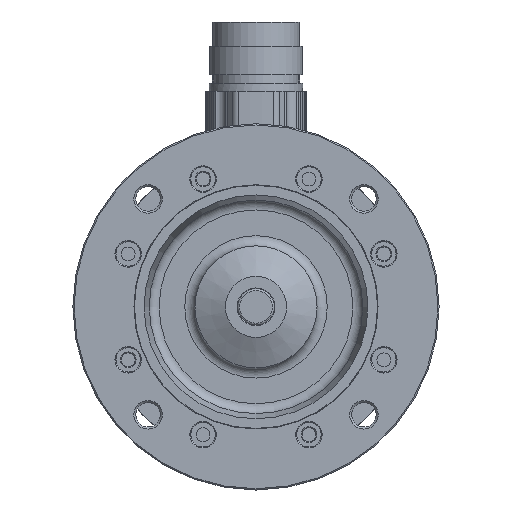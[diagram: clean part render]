
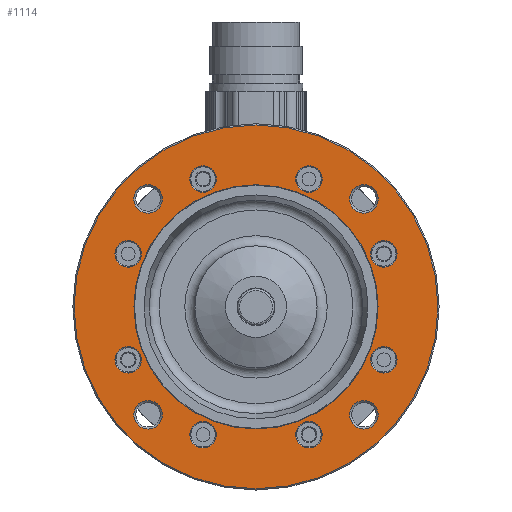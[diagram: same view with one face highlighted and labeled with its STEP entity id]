
A CAD part, front view. The second image highlights one B-rep face of the part: STEP entity #1114.
In plain terms, the highlighted planar face has unit normal (0, -1, 0).
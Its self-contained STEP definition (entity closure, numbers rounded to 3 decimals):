
#433=PLANE('',#6247);
#541=FACE_BOUND('',#2040,.T.);
#542=FACE_BOUND('',#2041,.T.);
#543=FACE_BOUND('',#2042,.T.);
#544=FACE_BOUND('',#2043,.T.);
#545=FACE_BOUND('',#2044,.T.);
#546=FACE_BOUND('',#2045,.T.);
#547=FACE_BOUND('',#2046,.T.);
#548=FACE_BOUND('',#2047,.T.);
#549=FACE_BOUND('',#2048,.T.);
#550=FACE_BOUND('',#2049,.T.);
#551=FACE_BOUND('',#2050,.T.);
#552=FACE_BOUND('',#2051,.T.);
#553=FACE_BOUND('',#2052,.T.);
#1114=ADVANCED_FACE('',(#1760,#541,#542,#543,#544,#545,#546,#547,#548,#549,
#550,#551,#552,#553),#433,.T.);
#1760=FACE_OUTER_BOUND('',#2039,.T.);
#2039=EDGE_LOOP('',(#3433));
#2040=EDGE_LOOP('',(#3434));
#2041=EDGE_LOOP('',(#3435));
#2042=EDGE_LOOP('',(#3436));
#2043=EDGE_LOOP('',(#3437));
#2044=EDGE_LOOP('',(#3438));
#2045=EDGE_LOOP('',(#3439));
#2046=EDGE_LOOP('',(#3440));
#2047=EDGE_LOOP('',(#3441));
#2048=EDGE_LOOP('',(#3442));
#2049=EDGE_LOOP('',(#3443));
#2050=EDGE_LOOP('',(#3444));
#2051=EDGE_LOOP('',(#3445));
#2052=EDGE_LOOP('',(#3446));
#2886=CIRCLE('',#6233,44.7);
#2887=CIRCLE('',#6234,3.25);
#2888=CIRCLE('',#6235,3.25);
#2889=CIRCLE('',#6236,3.25);
#2890=CIRCLE('',#6237,3.25);
#2891=CIRCLE('',#6238,3.25);
#2892=CIRCLE('',#6239,3.25);
#2893=CIRCLE('',#6240,3.25);
#2894=CIRCLE('',#6241,3.25);
#2895=CIRCLE('',#6242,3.5);
#2896=CIRCLE('',#6243,3.5);
#2897=CIRCLE('',#6244,3.5);
#2898=CIRCLE('',#6245,3.5);
#2899=CIRCLE('',#6246,30.);
#3433=ORIENTED_EDGE('',*,*,#5332,.T.);
#3434=ORIENTED_EDGE('',*,*,#5333,.T.);
#3435=ORIENTED_EDGE('',*,*,#5334,.T.);
#3436=ORIENTED_EDGE('',*,*,#5335,.T.);
#3437=ORIENTED_EDGE('',*,*,#5336,.T.);
#3438=ORIENTED_EDGE('',*,*,#5337,.T.);
#3439=ORIENTED_EDGE('',*,*,#5338,.T.);
#3440=ORIENTED_EDGE('',*,*,#5339,.T.);
#3441=ORIENTED_EDGE('',*,*,#5340,.T.);
#3442=ORIENTED_EDGE('',*,*,#5341,.T.);
#3443=ORIENTED_EDGE('',*,*,#5342,.T.);
#3444=ORIENTED_EDGE('',*,*,#5343,.T.);
#3445=ORIENTED_EDGE('',*,*,#5344,.T.);
#3446=ORIENTED_EDGE('',*,*,#5345,.F.);
#4759=VERTEX_POINT('',#9317);
#4760=VERTEX_POINT('',#9319);
#4761=VERTEX_POINT('',#9321);
#4762=VERTEX_POINT('',#9323);
#4763=VERTEX_POINT('',#9325);
#4764=VERTEX_POINT('',#9327);
#4765=VERTEX_POINT('',#9329);
#4766=VERTEX_POINT('',#9331);
#4767=VERTEX_POINT('',#9333);
#4768=VERTEX_POINT('',#9335);
#4769=VERTEX_POINT('',#9337);
#4770=VERTEX_POINT('',#9339);
#4771=VERTEX_POINT('',#9341);
#4772=VERTEX_POINT('',#9343);
#5332=EDGE_CURVE('',#4759,#4759,#2886,.T.);
#5333=EDGE_CURVE('',#4760,#4760,#2887,.T.);
#5334=EDGE_CURVE('',#4761,#4761,#2888,.T.);
#5335=EDGE_CURVE('',#4762,#4762,#2889,.T.);
#5336=EDGE_CURVE('',#4763,#4763,#2890,.T.);
#5337=EDGE_CURVE('',#4764,#4764,#2891,.T.);
#5338=EDGE_CURVE('',#4765,#4765,#2892,.T.);
#5339=EDGE_CURVE('',#4766,#4766,#2893,.T.);
#5340=EDGE_CURVE('',#4767,#4767,#2894,.T.);
#5341=EDGE_CURVE('',#4768,#4768,#2895,.T.);
#5342=EDGE_CURVE('',#4769,#4769,#2896,.T.);
#5343=EDGE_CURVE('',#4770,#4770,#2897,.T.);
#5344=EDGE_CURVE('',#4771,#4771,#2898,.T.);
#5345=EDGE_CURVE('',#4772,#4772,#2899,.T.);
#6233=AXIS2_PLACEMENT_3D('',#9316,#7240,#7241);
#6234=AXIS2_PLACEMENT_3D('',#9318,#7242,#7243);
#6235=AXIS2_PLACEMENT_3D('',#9320,#7244,#7245);
#6236=AXIS2_PLACEMENT_3D('',#9322,#7246,#7247);
#6237=AXIS2_PLACEMENT_3D('',#9324,#7248,#7249);
#6238=AXIS2_PLACEMENT_3D('',#9326,#7250,#7251);
#6239=AXIS2_PLACEMENT_3D('',#9328,#7252,#7253);
#6240=AXIS2_PLACEMENT_3D('',#9330,#7254,#7255);
#6241=AXIS2_PLACEMENT_3D('',#9332,#7256,#7257);
#6242=AXIS2_PLACEMENT_3D('',#9334,#7258,#7259);
#6243=AXIS2_PLACEMENT_3D('',#9336,#7260,#7261);
#6244=AXIS2_PLACEMENT_3D('',#9338,#7262,#7263);
#6245=AXIS2_PLACEMENT_3D('',#9340,#7264,#7265);
#6246=AXIS2_PLACEMENT_3D('',#9342,#7266,#7267);
#6247=AXIS2_PLACEMENT_3D('',#9344,#7268,#7269);
#7240=DIRECTION('',(0.,-1.,0.));
#7241=DIRECTION('',(0.,0.,-1.));
#7242=DIRECTION('',(0.,1.,0.));
#7243=DIRECTION('',(0.,0.,-1.));
#7244=DIRECTION('',(0.,1.,0.));
#7245=DIRECTION('',(0.,0.,-1.));
#7246=DIRECTION('',(0.,1.,0.));
#7247=DIRECTION('',(0.,0.,-1.));
#7248=DIRECTION('',(0.,1.,0.));
#7249=DIRECTION('',(0.,0.,-1.));
#7250=DIRECTION('',(0.,1.,0.));
#7251=DIRECTION('',(0.,0.,-1.));
#7252=DIRECTION('',(0.,1.,0.));
#7253=DIRECTION('',(0.,0.,-1.));
#7254=DIRECTION('',(0.,1.,0.));
#7255=DIRECTION('',(0.,0.,-1.));
#7256=DIRECTION('',(0.,1.,0.));
#7257=DIRECTION('',(0.,0.,-1.));
#7258=DIRECTION('',(0.,1.,0.));
#7259=DIRECTION('',(0.,0.,-1.));
#7260=DIRECTION('',(0.,1.,0.));
#7261=DIRECTION('',(0.,0.,-1.));
#7262=DIRECTION('',(0.,1.,0.));
#7263=DIRECTION('',(0.,0.,-1.));
#7264=DIRECTION('',(0.,1.,0.));
#7265=DIRECTION('',(0.,0.,-1.));
#7266=DIRECTION('',(0.,-1.,0.));
#7267=DIRECTION('',(0.,0.,-1.));
#7268=DIRECTION('',(0.,-1.,0.));
#7269=DIRECTION('',(0.,0.,-1.));
#9316=CARTESIAN_POINT('',(0.,0.,0.));
#9317=CARTESIAN_POINT('',(0.,0.,-44.7));
#9318=CARTESIAN_POINT('',(13.011,0.,31.412));
#9319=CARTESIAN_POINT('',(13.011,0.,28.162));
#9320=CARTESIAN_POINT('',(-31.412,0.,13.011));
#9321=CARTESIAN_POINT('',(-31.412,0.,9.761));
#9322=CARTESIAN_POINT('',(31.412,0.,-13.011));
#9323=CARTESIAN_POINT('',(31.412,0.,-16.261));
#9324=CARTESIAN_POINT('',(-13.011,0.,-31.412));
#9325=CARTESIAN_POINT('',(-13.011,0.,-34.662));
#9326=CARTESIAN_POINT('',(-31.412,0.,-13.011));
#9327=CARTESIAN_POINT('',(-31.412,0.,-16.261));
#9328=CARTESIAN_POINT('',(31.412,0.,13.011));
#9329=CARTESIAN_POINT('',(31.412,0.,9.761));
#9330=CARTESIAN_POINT('',(13.011,0.,-31.412));
#9331=CARTESIAN_POINT('',(13.011,0.,-34.662));
#9332=CARTESIAN_POINT('',(-13.011,0.,31.412));
#9333=CARTESIAN_POINT('',(-13.011,0.,28.162));
#9334=CARTESIAN_POINT('',(26.517,0.,26.517));
#9335=CARTESIAN_POINT('',(26.517,0.,23.017));
#9336=CARTESIAN_POINT('',(-26.517,0.,26.517));
#9337=CARTESIAN_POINT('',(-26.517,0.,23.017));
#9338=CARTESIAN_POINT('',(26.517,0.,-26.517));
#9339=CARTESIAN_POINT('',(26.517,0.,-30.017));
#9340=CARTESIAN_POINT('',(-26.517,0.,-26.517));
#9341=CARTESIAN_POINT('',(-26.517,0.,-30.017));
#9342=CARTESIAN_POINT('',(0.,0.,0.));
#9343=CARTESIAN_POINT('',(0.,0.,-30.));
#9344=CARTESIAN_POINT('',(0.,0.,0.));
